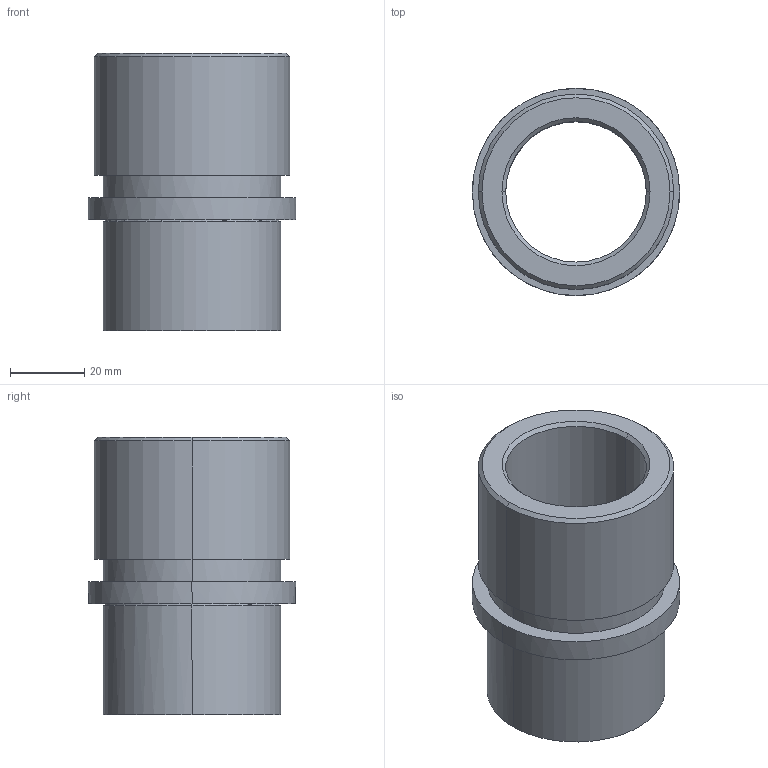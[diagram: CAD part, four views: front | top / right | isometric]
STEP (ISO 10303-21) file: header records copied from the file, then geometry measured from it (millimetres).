
FILE_DESCRIPTION(('CATIA V5 STEP Exchange'),'2;1');
FILE_NAME('C:\Users\Utente\Desktop\IO LAVORO\3D X SITO CF\X SITO\735\735-30.stp','2021-01-16T19:24:59+00:00',('none'),('none'),'CATIA Version 5 Release 20 GA (IN-10)','CATIA V5 STEP AP203','none');
FILE_SCHEMA(('CONFIG_CONTROL_DESIGN'));
Length unit declared in the file: millimetre
Products named in the file (1): 735-30
Assembly tree (1 placements, depth 2):
  735-30
    #58
Bounding box: 56 x 56 x 75 mm (x, y, z)
Volume: 66788.3 mm3; surface area: 24335.8 mm2
Topology: 1 solids, 1 shells, 25 faces, 50 edges, 30 vertices
Faces by surface type: cylinder 10, cone 6, plane 5, torus 4
Entity records: 851 total; most frequent: CARTESIAN_POINT 282, ORIENTED_EDGE 100, DIRECTION 96, AXIS2_PLACEMENT_3D 53, EDGE_CURVE 50, EDGE_LOOP 30, VERTEX_POINT 30, CIRCLE 26
